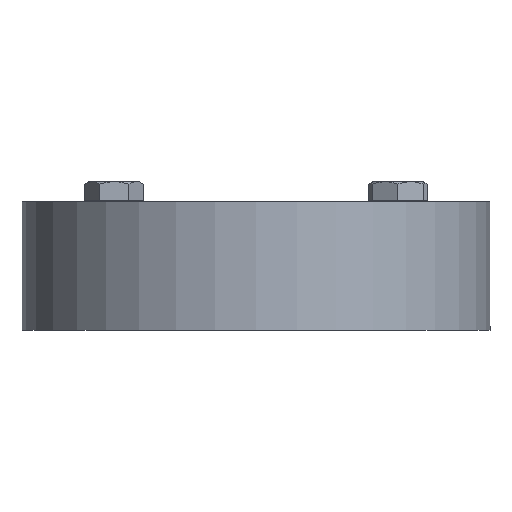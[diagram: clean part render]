
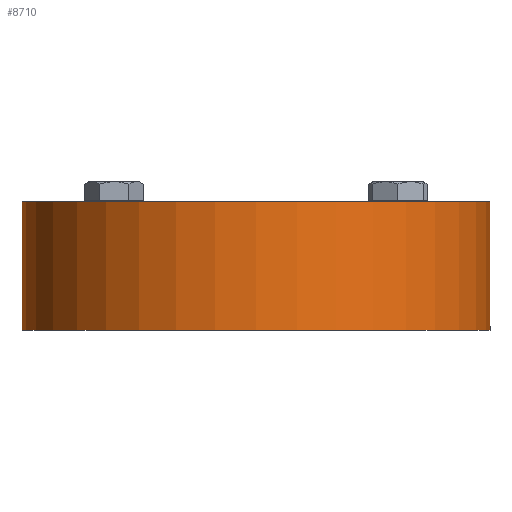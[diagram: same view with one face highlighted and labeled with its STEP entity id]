
A CAD part, front view. The second image highlights one B-rep face of the part: STEP entity #8710.
In plain terms, the highlighted cylindrical face has radius 87.5 mm (diameter 175 mm), a full revolution.
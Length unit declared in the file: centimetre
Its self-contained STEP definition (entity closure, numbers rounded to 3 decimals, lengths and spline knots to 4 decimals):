
#542=CYLINDRICAL_SURFACE('',#9018,8.75);
#593=FACE_BOUND('',#3576,.T.);
#3070=FACE_OUTER_BOUND('',#3575,.T.);
#3575=EDGE_LOOP('',(#7902));
#3576=EDGE_LOOP('',(#7903));
#3635=CIRCLE('',#9000,8.75);
#3640=CIRCLE('',#9019,8.75);
#4405=VERTEX_POINT('',#15082);
#4410=VERTEX_POINT('',#15106);
#5576=EDGE_CURVE('',#4405,#4405,#3635,.T.);
#5581=EDGE_CURVE('',#4410,#4410,#3640,.T.);
#7902=ORIENTED_EDGE('',*,*,#5581,.F.);
#7903=ORIENTED_EDGE('',*,*,#5576,.F.);
#8710=ADVANCED_FACE('',(#3070,#593),#542,.T.);
#9000=AXIS2_PLACEMENT_3D('',#15083,#10312,#10313);
#9018=AXIS2_PLACEMENT_3D('',#15105,#10348,#10349);
#9019=AXIS2_PLACEMENT_3D('',#15107,#10350,#10351);
#10312=DIRECTION('center_axis',(0.,0.,
1.));
#10313=DIRECTION('ref_axis',(1.,0.,0.));
#10348=DIRECTION('center_axis',(0.,0.,
1.));
#10349=DIRECTION('ref_axis',(1.,0.,0.));
#10350=DIRECTION('center_axis',(0.,0.,
-1.));
#10351=DIRECTION('ref_axis',(-1.,0.,0.));
#15082=CARTESIAN_POINT('',(-5.1234,0.0625,-11.3311));
#15083=CARTESIAN_POINT('Origin',(3.6266,0.0625,-11.3311));
#15105=CARTESIAN_POINT('Origin',(3.6266,0.0625,-12.0311));
#15106=CARTESIAN_POINT('',(12.3766,0.0625,-16.1311));
#15107=CARTESIAN_POINT('Origin',(3.6266,0.0625,-16.1311));
